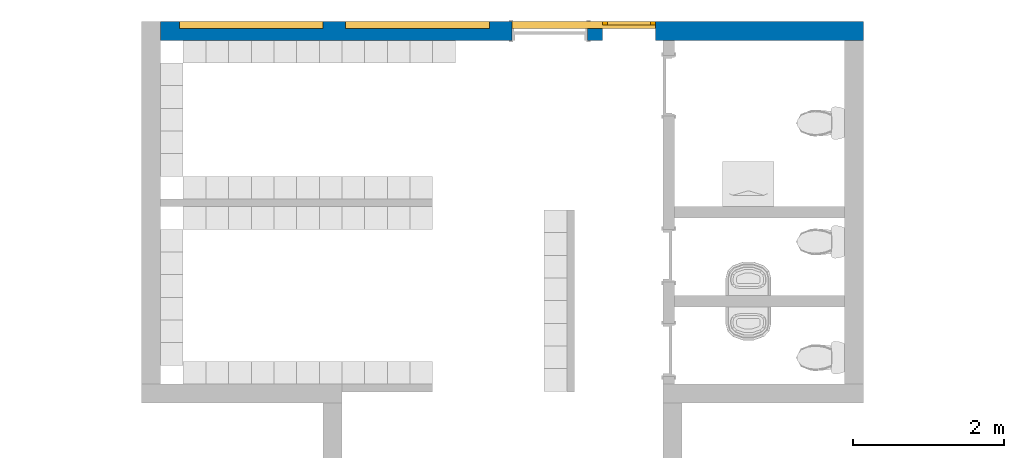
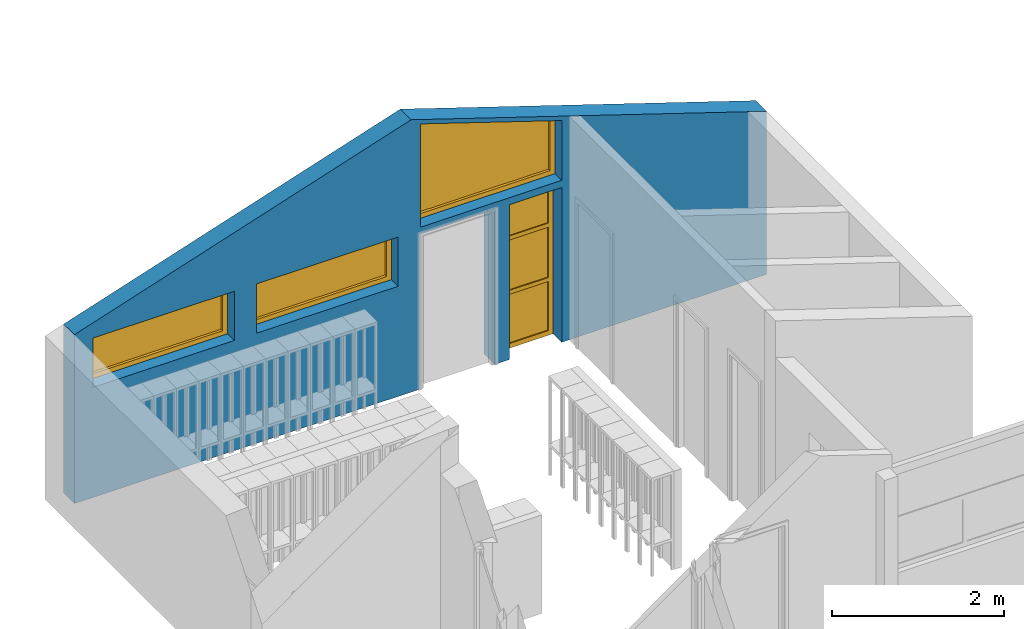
# One storey, part 17 of 48: 4 windows, 1 wall, 5 openings.
"""IFC2X3 building model written with IfcOpenShell, lengths in millimetres."""

from ifc_helpers import new_model, entity, si_unit, converted_unit, derived_unit, money_unit, direction, frame, origin_with_axes, place, context, subcontext, project, spatial, open_shell, faceted_brep, surface_model, source, transform, mapped, material, type_object, element, fill, save


model = new_model("IFC2X3")

# Units and contexts
model_context = context("Model", 3, precision=0.01, world=origin_with_axes(), true_north=direction((0.0, 1.0)))
body_context = subcontext(model_context, "Body", "Model", "MODEL_VIEW")
ifc_project = project(units=[si_unit("LENGTHUNIT", "METRE", prefix="MILLI"), si_unit("AREAUNIT", "SQUARE_METRE"), si_unit("VOLUMEUNIT", "CUBIC_METRE"), converted_unit("PLANEANGLEUNIT", "DEGREE", entity("IfcPlaneAngleMeasure", 0.0174532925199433), si_unit("PLANEANGLEUNIT", "RADIAN"), dimensions=[0, 0, 0, 0, 0, 0, 0]), money_unit("USD"), converted_unit("TIMEUNIT", "Year", entity("IfcTimeMeasure", 31557600.0), si_unit("TIMEUNIT", "SECOND"), dimensions=[0, 0, 1, 0, 0, 0, 0]), si_unit("MASSUNIT", "GRAM", prefix="KILO"), si_unit("THERMODYNAMICTEMPERATUREUNIT", "DEGREE_CELSIUS"), si_unit("LUMINOUSINTENSITYUNIT", "LUMEN"), si_unit("ENERGYUNIT", "JOULE", prefix="MEGA"), derived_unit("THERMALCONDUCTANCEUNIT", [(si_unit("POWERUNIT", "WATT"), 1), (si_unit("LENGTHUNIT", "METRE"), -1), (si_unit("THERMODYNAMICTEMPERATUREUNIT", "KELVIN"), -1)]), derived_unit("SPECIFICHEATCAPACITYUNIT", [(si_unit("ENERGYUNIT", "JOULE"), 1), (si_unit("MASSUNIT", "GRAM", prefix="KILO"), -1), (si_unit("THERMODYNAMICTEMPERATUREUNIT", "KELVIN"), -1)]), derived_unit("MASSDENSITYUNIT", [(si_unit("MASSUNIT", "GRAM", prefix="KILO"), 1), (si_unit("VOLUMEUNIT", "CUBIC_METRE"), -1)])], contexts=[model_context])

# Site, building, storey
site_placement = place(None, origin_with_axes())
site = spatial("IfcSite", under=ifc_project, at=site_placement, Name="Site", CompositionType="ELEMENT")
building_placement = place(site_placement, origin_with_axes())
building = spatial("IfcBuilding", under=site, at=building_placement, Name="Building", CompositionType="ELEMENT")
storey_placement = place(building_placement, frame((0.0, 0.0, 3300.0), z_axis=(0.0, 0.0, 1.0), x_axis=(1.0, 0.0, 0.0)))
storey = spatial("IfcBuildingStorey", under=building, at=storey_placement, Name="1 ETG", CompositionType="ELEMENT", Elevation=3300.0)

# Wall, openings, windows
ifc_material = material(Name="GENERIC - INTERNAL FILLER")
wall_type = type_object("IfcWallType", Name="GENERIC - INTERNAL FILLER 250", PredefinedType="NOTDEFINED")
wall_placement = place(storey_placement, frame((2099.999999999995, 28999.87497643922, 0.0), z_axis=(0.0, 0.0, 1.0), x_axis=(1.0, 7.248070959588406e-10, 0.0)))
wall = element("IfcWall", 1, at=wall_placement, inside=storey, type_object=wall_type, material=ifc_material, Name="SW - 001", context=body_context, shape_type="Brep", body=[
    faceted_brep([(4775.001624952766, 124.9999965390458, 2200.0), (4775.001624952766, 124.9999965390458, 0.0), (125.0000000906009, 124.9999999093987, 0.0), (125.0000000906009, 124.9999999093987, 2399.998850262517), (4650.000384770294, 124.9999966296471, 3870.261768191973), (9425.000220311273, 124.9999931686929, 2318.768884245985), (9424.999677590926, 124.9999931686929, 0.0), (6675.001624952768, 124.9999951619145, 0.0), (6675.001624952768, 124.9999951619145, 2200.0), (5975.001624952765, 124.9999956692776, 2200.0), (5975.001624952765, 124.9999956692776, 0.0), (5775.001624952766, 124.9999958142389, 0.0), (5775.001624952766, 124.9999958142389, 2200.0), (375.0000002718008, 124.9999997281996, 1565.018749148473), (2275.000000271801, 124.9999983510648, 1565.018749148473), (2275.000000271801, 124.9999983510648, 2265.018749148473), (375.0000002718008, 124.9999997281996, 2265.018749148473), (4775.001624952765, 124.9999965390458, 3767.347422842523), (4775.001624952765, 124.9999965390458, 2300.000000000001), (6675.001624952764, 124.9999951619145, 2300.000000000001), (6675.001624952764, 124.9999951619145, 3150.0), (4475.001624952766, 124.9999967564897, 2265.018749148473), (2575.001624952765, 124.9999981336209, 2265.018749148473), (2575.001624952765, 124.9999981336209, 1565.018749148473), (4475.001624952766, 124.9999967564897, 1565.018749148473), (4775.001624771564, -125.0000034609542, 2200.0), (4775.001624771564, -125.0000034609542, 0.0), (124.9999999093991, -125.0000000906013, 0.0), (124.9999999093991, -125.0000000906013, 2399.998850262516), (4650.000384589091, -125.0000033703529, 3870.261768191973), (9425.00022413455, -125.0000068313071, 2318.768882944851), (9424.999712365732, -125.0000068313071, 0.0), (6675.001624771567, -125.0000048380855, 0.0), (6675.001624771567, -125.0000048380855, 2200.0), (5975.001624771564, -125.0000043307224, 2200.0), (5975.001624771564, -125.0000043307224, 0.0), (5775.001624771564, -125.0000041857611, 0.0), (5775.001624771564, -125.0000041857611, 2200.0), (375.0000000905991, -125.0000002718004, 1565.018749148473), (2275.000000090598, -125.0000016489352, 1565.018749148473), (2275.000000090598, -125.0000016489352, 2265.018749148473), (375.0000000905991, -125.0000002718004, 2265.018749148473), (4775.001624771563, -125.0000034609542, 2300.000000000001), (4775.001624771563, -125.0000034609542, 3767.347422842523), (6675.001624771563, -125.0000048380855, 2300.000000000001), (6675.001624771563, -125.0000048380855, 3150.0), (4475.001624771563, -125.0000032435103, 2265.018749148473), (2575.001624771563, -125.0000018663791, 2265.018749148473), (2575.001624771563, -125.0000018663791, 1565.018749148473), (4475.001624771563, -125.0000032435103, 1565.018749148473)], [[[0, 1, 2, 3, 4, 5, 6, 7, 8, 9, 10, 11, 12], [13, 14, 15, 16], [17, 18, 19, 20], [21, 22, 23, 24]], [[1, 0, 25, 26]], [[1, 26, 27, 2]], [[28, 3, 2, 27]], [[4, 3, 28, 29]], [[30, 5, 4, 29]], [[5, 30, 31, 6]], [[7, 6, 31, 32]], [[7, 32, 33, 8]], [[8, 33, 34, 9]], [[9, 34, 35, 10]], [[36, 11, 10, 35]], [[12, 11, 36, 37]], [[0, 12, 37, 25]], [[14, 13, 38, 39]], [[15, 14, 39, 40]], [[16, 15, 40, 41]], [[13, 16, 41, 38]], [[42, 18, 17, 43]], [[44, 19, 18, 42]], [[45, 20, 19, 44]], [[43, 17, 20, 45]], [[46, 47, 22, 21]], [[47, 48, 23, 22]], [[48, 49, 24, 23]], [[49, 46, 21, 24]], [[37, 36, 35, 34, 33, 32, 31, 30, 29, 28, 27, 26, 25], [38, 41, 40, 39], [44, 42, 43, 45], [46, 49, 48, 47]]]),
])
opening_1_placement = place(wall_placement, frame((5725.001624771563, 0.0, 2300.000000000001), z_axis=(0.0, 0.0, 1.0), x_axis=(1.0, 0.0, 0.0)))
opening_1 = element("IfcOpeningElement", 2, at=opening_1_placement, cuts=wall, Name="WD - 001", context=body_context, shape_type="Brep", body=[
    faceted_brep([(-950.000000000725, -126.000003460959, 1467.347422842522), (-950.000000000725, -126.000003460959, 0.0), (949.9999999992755, -126.0000048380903, 0.0), (949.9999999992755, -126.0000048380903, 849.9999999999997), (-949.9999998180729, 126.0000032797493, 1467.347422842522), (-949.9999998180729, 126.0000032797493, 0.0), (950.0000001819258, 126.000001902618, 0.0), (950.0000001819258, 126.000001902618, 849.9999999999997)], [[[0, 1, 2, 3]], [[4, 5, 1, 0]], [[5, 6, 2, 1]], [[6, 7, 3, 2]], [[7, 4, 0, 3]], [[6, 5, 4, 7]]]),
])
opening_2_placement = place(wall_placement, frame((3525.001624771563, 0.0, 1565.018749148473), z_axis=(0.0, 0.0, 1.0), x_axis=(1.0, 0.0, 0.0)))
opening_2 = element("IfcOpeningElement", 3, at=opening_2_placement, cuts=wall, Name="WD - 001", context=body_context, shape_type="Brep", body=[
    faceted_brep([(-950.0000000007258, -126.0000018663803, 700.0000000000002), (-950.0000000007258, -126.0000018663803, 0.0), (949.9999999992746, -126.0000032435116, 0.0), (949.9999999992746, -126.0000032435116, 700.0000000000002), (-949.9999998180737, 126.0000048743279, 700.0000000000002), (-949.9999998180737, 126.0000048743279, 0.0), (950.0000001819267, 126.0000034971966, 0.0), (950.0000001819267, 126.0000034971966, 700.0000000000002)], [[[0, 1, 2, 3]], [[4, 5, 1, 0]], [[5, 6, 2, 1]], [[6, 7, 3, 2]], [[7, 4, 0, 3]], [[6, 5, 4, 7]]]),
])
opening_3_placement = place(wall_placement, frame((6325.001624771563, 0.0, 0.0), z_axis=(0.0, 0.0, 1.0), x_axis=(1.0, 0.0, 0.0)))
opening_3 = element("IfcOpeningElement", 4, at=opening_3_placement, cuts=wall, Name="WD - 001", context=body_context, shape_type="Brep", body=[
    faceted_brep([(-350.0000000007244, -126.0000043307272, 2200.0), (-350.0000000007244, -126.0000043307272, 0.0), (349.9999999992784, -126.0000048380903, 0.0), (349.9999999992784, -126.0000048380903, 2200.0), (-349.9999998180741, 126.000002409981, 2200.0), (-349.9999998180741, 126.000002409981, 0.0), (350.0000001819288, 126.000001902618, 0.0), (350.0000001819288, 126.000001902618, 2200.0)], [[[0, 1, 2, 3]], [[4, 5, 1, 0]], [[5, 6, 2, 1]], [[6, 7, 3, 2]], [[7, 4, 0, 3]], [[6, 5, 4, 7]]]),
])
opening_4_placement = place(wall_placement, frame((5275.001624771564, 0.0, 0.0), z_axis=(0.0, 0.0, 1.0), x_axis=(1.0, 0.0, 0.0)))
element("IfcOpeningElement", 5, at=opening_4_placement, cuts=wall, Name="DOO - 002", context=body_context, shape_type="Brep", body=[
    faceted_brep([(-500.0000000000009, -125.0000034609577, 2200.0), (499.9999999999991, -125.0000041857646, 2200.0), (500.0000001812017, 124.9999958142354, 2200.0), (-499.9999998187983, 124.9999965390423, 2200.0), (499.9999999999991, -125.0000041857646, 0.0), (-500.0000000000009, -125.0000034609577, 0.0), (-537.0000000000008, -125.0000034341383, 0.0), (-537.0000000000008, -125.0000034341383, 2237.0), (536.9999999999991, -125.0000042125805, 2237.0), (536.9999999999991, -125.0000042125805, 0.0), (500.0000001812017, 124.9999958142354, 0.0), (537.0000001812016, 124.9999957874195, 0.0), (537.0000001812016, 124.9999957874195, 2237.0), (-536.9999998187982, 124.9999965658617, 2237.0), (-536.9999998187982, 124.9999965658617, 0.0), (-499.9999998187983, 124.9999965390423, 0.0), (-500.0000000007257, -126.000003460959, 0.0), (-537.0000000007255, -126.0000034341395, 0.0), (-537.0000000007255, -126.0000034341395, 2237.0), (536.9999999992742, -126.0000042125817, 2237.0), (536.9999999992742, -126.0000042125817, 0.0), (499.9999999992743, -126.0000041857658, 0.0), (-499.9999998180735, 126.0000032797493, 0.0), (500.0000001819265, 126.0000025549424, 0.0), (537.0000001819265, 126.0000025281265, 0.0), (537.0000001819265, 126.0000025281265, 2237.0), (-536.9999998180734, 126.0000033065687, 2237.0), (-536.9999998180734, 126.0000033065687, 0.0), (-500.0000000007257, -126.000003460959, 2200.0), (499.9999999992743, -126.0000041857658, 2200.0)], [[[0, 1, 2, 3]], [[4, 1, 0, 5, 6, 7, 8, 9]], [[1, 4, 10, 2]], [[3, 2, 10, 11, 12, 13, 14, 15]], [[5, 0, 3, 15]], [[5, 16, 17, 6]], [[7, 6, 17, 18]], [[8, 7, 18, 19]], [[9, 8, 19, 20]], [[21, 4, 9, 20]], [[16, 5, 15, 22, 23, 10, 4, 21]], [[10, 23, 24, 11]], [[12, 11, 24, 25]], [[13, 12, 25, 26]], [[14, 13, 26, 27]], [[22, 15, 14, 27]], [[28, 29, 21, 20, 19, 18, 17, 16]], [[23, 22, 27, 26, 25, 24]], [[28, 16, 21, 29]]]),
])
opening_5_placement = place(wall_placement, frame((1325.000000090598, 0.0, 1565.018749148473), z_axis=(0.0, 0.0, 1.0), x_axis=(1.0, 0.0, 0.0)))
opening_5 = element("IfcOpeningElement", 6, at=opening_5_placement, cuts=wall, Name="WD - 001", context=body_context, shape_type="Brep", body=[
    faceted_brep([(-950.0000000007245, -126.0000002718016, 700.0000000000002), (-950.0000000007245, -126.0000002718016, 0.0), (949.9999999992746, -126.0000016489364, 0.0), (949.9999999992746, -126.0000016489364, 700.0000000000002), (-949.9999998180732, 126.0000064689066, 700.0000000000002), (-949.9999998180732, 126.0000064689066, 0.0), (950.0000001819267, 126.0000050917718, 0.0), (950.0000001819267, 126.0000050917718, 700.0000000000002)], [[[0, 1, 2, 3]], [[4, 5, 1, 0]], [[5, 6, 2, 1]], [[6, 7, 3, 2]], [[7, 4, 0, 3]], [[6, 5, 4, 7]]]),
])
window_style_1 = type_object("IfcWindowStyle", Name="Vindu", ConstructionType="NOTDEFINED", OperationType="SINGLE_PANEL", ParameterTakesPrecedence=False, Sizeable=False)
shared_shape_1 = source(origin_with_axes(), body_context, "Body", "SurfaceModel", [
    faceted_brep([(883.9999999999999, -92.00000000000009, 633.9999999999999), (950.0, -92.00000000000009, 633.9999999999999), (950.0, 0.0, 633.9999999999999), (883.9999999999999, 0.0, 633.9999999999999), (883.9999999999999, -92.0, 66.0), (950.0, -92.0, 66.0), (950.0, 0.0, 66.0), (883.9999999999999, 0.0, 66.0)], [[[0, 1, 2, 3]], [[0, 4, 5, 1]], [[1, 5, 6, 2]], [[3, 2, 6, 7]], [[4, 0, 3, 7]], [[5, 4, 7, 6]]]),
    faceted_brep([(-883.9999999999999, -92.0, 66.0), (-950.0, -92.0, 66.0), (-950.0, 0.0, 66.0), (-883.9999999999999, 0.0, 66.0), (-883.9999999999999, -92.00000000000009, 633.9999999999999), (-950.0, -92.00000000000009, 633.9999999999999), (-950.0, 0.0, 633.9999999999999), (-883.9999999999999, 0.0, 633.9999999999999)], [[[0, 1, 2, 3]], [[0, 4, 5, 1]], [[1, 5, 6, 2]], [[3, 2, 6, 7]], [[4, 0, 3, 7]], [[5, 4, 7, 6]]]),
    faceted_brep([(883.9999999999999, -92.0, 66.0), (950.0, -92.0, 66.0), (950.0, 0.0, 66.0), (883.9999999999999, 0.0, 66.0), (-883.9999999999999, -92.0, 66.0), (-950.0, -92.0, 66.0), (-950.0, -92.0, 0.0), (950.0, -92.0, 0.0), (950.0, 0.0, 0.0), (-950.0, 0.0, 0.0), (-950.0, 0.0, 66.0), (-883.9999999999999, 0.0, 66.0)], [[[0, 1, 2, 3]], [[0, 4, 5, 6, 7, 1]], [[1, 7, 8, 2]], [[3, 2, 8, 9, 10, 11]], [[4, 0, 3, 11]], [[5, 4, 11, 10]], [[6, 5, 10, 9]], [[7, 6, 9, 8]]]),
    faceted_brep([(-883.9999999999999, -92.00000000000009, 633.9999999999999), (-950.0, -92.00000000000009, 633.9999999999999), (-950.0, 0.0, 633.9999999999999), (-883.9999999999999, 0.0, 633.9999999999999), (883.9999999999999, -92.00000000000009, 633.9999999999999), (950.0, -92.00000000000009, 633.9999999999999), (950.0, -92.00000000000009, 700.0), (-950.0, -92.00000000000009, 700.0), (-950.0, 0.0, 700.0), (950.0, 0.0, 700.0), (950.0, 0.0, 633.9999999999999), (883.9999999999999, 0.0, 633.9999999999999)], [[[0, 1, 2, 3]], [[0, 4, 5, 6, 7, 1]], [[1, 7, 8, 2]], [[3, 2, 8, 9, 10, 11]], [[4, 0, 3, 11]], [[5, 4, 11, 10]], [[6, 5, 10, 9]], [[7, 6, 9, 8]]]),
    surface_model("IfcShellBasedSurfaceModel", [(883.9999999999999, -56.0, 66.0), (883.9999999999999, -56.00000000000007, 633.9999999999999), (-883.9999999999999, -56.00000000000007, 633.9999999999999), (-883.9999999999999, -56.0, 66.0)], [open_shell([[[0, 1, 2, 3]]])]),
    surface_model("IfcShellBasedSurfaceModel", [(883.9999999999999, -36.00000000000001, 66.0), (-883.9999999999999, -36.00000000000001, 66.0), (-883.9999999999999, -36.00000000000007, 633.9999999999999), (883.9999999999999, -36.00000000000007, 633.9999999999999)], [open_shell([[[0, 1, 2, 3]]])]),
])
window_1_placement = place(opening_5_placement, frame((-950.0000000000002, 0.0, 0.0), z_axis=(0.0, 0.0, 1.0), x_axis=(1.0, 0.0, 0.0)))
window_1 = element("IfcWindow", 7, at=window_1_placement, inside=storey, type_object=window_style_1, Name="WD - 001", ObjectType="WINDOW", OverallHeight=700.0, OverallWidth=1900.0, context=body_context, shape_type="MappedRepresentation", body=[
    mapped(shared_shape_1, transform((950.0000001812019, 124.9999990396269, 0.0))),
])
fill(opening_5, window_1)
window_2_placement = place(opening_2_placement, frame((-950.0000000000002, 0.0, 0.0), z_axis=(0.0, 0.0, 1.0), x_axis=(1.0, 0.0, 0.0)))
window_2 = element("IfcWindow", 8, at=window_2_placement, inside=storey, type_object=window_style_1, Name="WD - 001", ObjectType="WINDOW", OverallHeight=700.0, OverallWidth=1900.0, context=body_context, shape_type="MappedRepresentation", body=[
    mapped(shared_shape_1, transform((950.0000001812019, 124.9999974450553, 0.0))),
])
fill(opening_2, window_2)
window_style_2 = type_object("IfcWindowStyle", Name="Vindu med skrå topp", ConstructionType="NOTDEFINED", OperationType="USERDEFINED", ParameterTakesPrecedence=False, Sizeable=False)
shared_shape_2 = source(origin_with_axes(), body_context, "Body", "SurfaceModel", [
    faceted_brep([(883.9999999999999, -92.00000000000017, 1376.506216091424), (950.0, -92.00000000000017, 1376.506216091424), (950.0, 0.0, 1376.506216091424), (883.9999999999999, 0.0, 1376.506216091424), (883.9999999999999, -92.0, 66.0), (950.0, -92.0, 66.0), (950.0, 0.0, 66.0), (883.9999999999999, 0.0, 66.0)], [[[0, 1, 2, 3]], [[0, 4, 5, 1]], [[1, 5, 6, 2]], [[3, 2, 6, 7]], [[4, 0, 3, 7]], [[5, 4, 7, 6]]]),
    faceted_brep([(-883.9999999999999, -92.0, 66.0), (-950.0, -92.0, 66.0), (-950.0, 0.0, 66.0), (-883.9999999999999, 0.0, 66.0), (-883.9999999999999, -92.0000000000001, 802.0481931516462), (-950.0, -92.0000000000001, 802.0481931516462), (-950.0, 0.0, 802.0481931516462), (-883.9999999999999, 0.0, 802.0481931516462)], [[[0, 1, 2, 3]], [[0, 4, 5, 1]], [[1, 5, 6, 2]], [[3, 2, 6, 7]], [[4, 0, 3, 7]], [[5, 4, 7, 6]]]),
    faceted_brep([(950.0, -92.00000000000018, 1467.347422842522), (950.0, -92.00000000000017, 1376.506216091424), (950.0, 0.0, 1376.506216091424), (950.0, 0.0, 1467.347422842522), (-950.0, -92.0000000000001, 850.0), (-950.0, -92.0000000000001, 802.0481931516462), (-883.9999999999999, -92.0000000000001, 802.0481931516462), (883.9999999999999, -92.00000000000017, 1376.506216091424), (883.9999999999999, 0.0, 1376.506216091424), (-883.9999999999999, 0.0, 802.0481931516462), (-950.0, 0.0, 802.0481931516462), (-950.0, 0.0, 850.0)], [[[0, 1, 2, 3]], [[0, 4, 5, 6, 7, 1]], [[1, 7, 8, 2]], [[3, 2, 8, 9, 10, 11]], [[4, 0, 3, 11]], [[5, 4, 11, 10]], [[6, 5, 10, 9]], [[7, 6, 9, 8]]]),
    faceted_brep([(-950.0, -92.0, 0.0), (-950.0, -92.0, 66.0), (-950.0, 0.0, 66.0), (-950.0, 0.0, 0.0), (950.0, -92.0, 0.0), (950.0, -92.0, 66.0), (883.9999999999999, -92.0, 66.0), (-883.9999999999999, -92.0, 66.0), (-883.9999999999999, 0.0, 66.0), (883.9999999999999, 0.0, 66.0), (950.0, 0.0, 66.0), (950.0, 0.0, 0.0)], [[[0, 1, 2, 3]], [[0, 4, 5, 6, 7, 1]], [[1, 7, 8, 2]], [[3, 2, 8, 9, 10, 11]], [[4, 0, 3, 11]], [[5, 4, 11, 10]], [[6, 5, 10, 9]], [[7, 6, 9, 8]]]),
    surface_model("IfcShellBasedSurfaceModel", [(883.9999999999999, -56.0, 66.0), (883.9999999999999, -56.00000000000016, 1376.506216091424), (-883.9999999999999, -56.00000000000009, 802.0481931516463), (-883.9999999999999, -56.0, 66.0)], [open_shell([[[0, 1, 2, 3]]])]),
    surface_model("IfcShellBasedSurfaceModel", [(883.9999999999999, -36.00000000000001, 66.0), (-883.9999999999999, -36.00000000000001, 66.0), (-883.9999999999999, -36.00000000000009, 802.0481931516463), (883.9999999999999, -36.00000000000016, 1376.506216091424)], [open_shell([[[0, 1, 2, 3]]])]),
])
window_3_placement = place(opening_1_placement, frame((949.9999999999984, 0.0, 0.0), z_axis=(0.0, 0.0, 1.0), x_axis=(-1.0, 0.0, 0.0)))
window_3 = element("IfcWindow", 9, at=window_3_placement, inside=storey, type_object=window_style_2, Name="WD - 001", ObjectType="WINDOW", OverallHeight=1467.35, OverallWidth=1900.0, context=body_context, shape_type="MappedRepresentation", body=[
    mapped(shared_shape_2, transform((949.9999998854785, -32.99999585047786, 0.0))),
])
fill(opening_1, window_3)
window_style_3 = type_object("IfcWindowStyle", Name="Vindu variabelt", ConstructionType="NOTDEFINED", OperationType="TRIPLE_PANEL_HORIZONTAL", ParameterTakesPrecedence=False, Sizeable=False)
shared_shape_3 = source(origin_with_axes(), body_context, "Body", "SurfaceModel", [
    faceted_brep([(-284.0000000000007, -50.00000000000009, 764.4329028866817), (-284.0000000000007, 0.0, 764.4329028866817), (-284.0000000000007, 0.0, 820.4329028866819), (-284.0000000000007, -50.0000000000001, 820.4329028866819), (-284.0000000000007, -50.00000000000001, 66.0), (-284.0000000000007, 0.0, 66.0), (-350.0000000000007, 0.0, 66.0), (-350.0000000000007, 0.0, 2134.0), (-284.0000000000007, 0.0, 2134.0), (-284.0000000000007, 0.0, 1593.018749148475), (-284.0000000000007, 0.0, 1537.018749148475), (-284.0000000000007, -50.00000000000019, 1537.018749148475), (-284.0000000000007, -50.0000000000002, 1593.018749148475), (-284.0000000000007, -50.00000000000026, 2134.0), (-350.0000000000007, -50.00000000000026, 2134.0), (-350.0000000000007, -50.00000000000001, 66.0)], [[[0, 1, 2, 3]], [[4, 5, 1, 0]], [[1, 5, 6, 7, 8, 9, 10, 2]], [[3, 2, 10, 11]], [[0, 3, 11, 12, 13, 14, 15, 4]], [[15, 6, 5, 4]], [[14, 7, 6, 15]], [[13, 8, 7, 14]], [[12, 9, 8, 13]], [[11, 10, 9, 12]]]),
    faceted_brep([(284.0000000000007, -50.00000000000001, 66.0), (284.0000000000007, 0.0, 66.0), (350.0000000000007, 0.0, 66.0), (350.0000000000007, -50.00000000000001, 66.0), (284.0000000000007, -50.00000000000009, 764.4329028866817), (284.0000000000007, 0.0, 764.4329028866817), (284.0000000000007, 0.0, 820.4329028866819), (284.0000000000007, 0.0, 1537.018749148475), (284.0000000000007, 0.0, 1593.018749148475), (284.0000000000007, 0.0, 2134.0), (350.0000000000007, 0.0, 2134.0), (350.0000000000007, -50.00000000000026, 2134.0), (284.0000000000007, -50.00000000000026, 2134.0), (284.0000000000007, -50.0000000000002, 1593.018749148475), (284.0000000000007, -50.00000000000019, 1537.018749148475), (284.0000000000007, -50.0000000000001, 820.4329028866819)], [[[0, 1, 2, 3]], [[4, 5, 1, 0]], [[1, 5, 6, 7, 8, 9, 10, 2]], [[3, 2, 10, 11]], [[0, 3, 11, 12, 13, 14, 15, 4]], [[15, 6, 5, 4]], [[14, 7, 6, 15]], [[13, 8, 7, 14]], [[12, 9, 8, 13]], [[11, 10, 9, 12]]]),
    faceted_brep([(-284.0000000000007, -50.0000000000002, 1593.018749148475), (-284.0000000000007, 0.0, 1593.018749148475), (-284.0000000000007, 0.0, 1537.018749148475), (-284.0000000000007, -50.00000000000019, 1537.018749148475), (284.0000000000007, -50.0000000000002, 1593.018749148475), (284.0000000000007, 0.0, 1593.018749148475), (284.0000000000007, 0.0, 1537.018749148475), (284.0000000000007, -50.00000000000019, 1537.018749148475)], [[[0, 1, 2, 3]], [[4, 5, 1, 0]], [[1, 5, 6, 2]], [[3, 2, 6, 7]], [[0, 3, 7, 4]], [[7, 6, 5, 4]]]),
    faceted_brep([(-284.0000000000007, -50.00000000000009, 764.4329028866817), (-284.0000000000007, 0.0, 764.4329028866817), (284.0000000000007, 0.0, 764.4329028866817), (284.0000000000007, -50.00000000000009, 764.4329028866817), (-284.0000000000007, -50.0000000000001, 820.4329028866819), (-284.0000000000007, 0.0, 820.4329028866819), (284.0000000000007, 0.0, 820.4329028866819), (284.0000000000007, -50.0000000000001, 820.4329028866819)], [[[0, 1, 2, 3]], [[4, 5, 1, 0]], [[1, 5, 6, 2]], [[3, 2, 6, 7]], [[0, 3, 7, 4]], [[7, 6, 5, 4]]]),
    faceted_brep([(-284.0000000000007, -50.00000000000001, 66.0), (-284.0000000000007, 0.0, 66.0), (-350.0000000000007, 0.0, 66.0), (-350.0000000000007, -50.00000000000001, 66.0), (284.0000000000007, -50.00000000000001, 66.0), (284.0000000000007, 0.0, 66.0), (350.0000000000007, 0.0, 66.0), (350.0000000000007, 0.0, 0.0), (-350.0000000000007, 0.0, 0.0), (-350.0000000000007, -50.0, 0.0), (350.0000000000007, -50.0, 0.0), (350.0000000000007, -50.00000000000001, 66.0)], [[[0, 1, 2, 3]], [[4, 5, 1, 0]], [[1, 5, 6, 7, 8, 2]], [[3, 2, 8, 9]], [[0, 3, 9, 10, 11, 4]], [[11, 6, 5, 4]], [[10, 7, 6, 11]], [[9, 8, 7, 10]]]),
    faceted_brep([(284.0000000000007, -50.00000000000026, 2134.0), (284.0000000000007, 0.0, 2134.0), (350.0000000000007, 0.0, 2134.0), (350.0000000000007, -50.00000000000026, 2134.0), (-284.0000000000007, -50.00000000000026, 2134.0), (-284.0000000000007, 0.0, 2134.0), (-350.0000000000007, 0.0, 2134.0), (-350.0000000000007, 0.0, 2200.0), (350.0000000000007, 0.0, 2200.0), (350.0000000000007, -50.00000000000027, 2200.0), (-350.0000000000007, -50.00000000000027, 2200.0), (-350.0000000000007, -50.00000000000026, 2134.0)], [[[0, 1, 2, 3]], [[4, 5, 1, 0]], [[1, 5, 6, 7, 8, 2]], [[3, 2, 8, 9]], [[0, 3, 9, 10, 11, 4]], [[11, 6, 5, 4]], [[10, 7, 6, 11]], [[9, 8, 7, 10]]]),
    surface_model("IfcShellBasedSurfaceModel", [(-284.0000000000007, -35.00000000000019, 1593.018749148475), (284.0000000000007, -35.00000000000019, 1593.018749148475), (284.0000000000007, -35.00000000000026, 2134.0), (-284.0000000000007, -35.00000000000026, 2134.0)], [open_shell([[[0, 1, 2, 3]]])]),
    surface_model("IfcShellBasedSurfaceModel", [(-284.0000000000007, -15.00000000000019, 1593.018749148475), (-284.0000000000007, -15.00000000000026, 2134.0), (284.0000000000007, -15.00000000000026, 2134.0), (284.0000000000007, -15.00000000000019, 1593.018749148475)], [open_shell([[[0, 1, 2, 3]]])]),
    surface_model("IfcShellBasedSurfaceModel", [(-284.0000000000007, -35.0000000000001, 820.4329028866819), (284.0000000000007, -35.0000000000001, 820.4329028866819), (284.0000000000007, -35.00000000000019, 1537.018749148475), (-284.0000000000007, -35.00000000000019, 1537.018749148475)], [open_shell([[[0, 1, 2, 3]]])]),
    surface_model("IfcShellBasedSurfaceModel", [(-284.0000000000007, -15.0000000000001, 820.4329028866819), (-284.0000000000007, -15.00000000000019, 1537.018749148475), (284.0000000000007, -15.00000000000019, 1537.018749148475), (284.0000000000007, -15.0000000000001, 820.4329028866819)], [open_shell([[[0, 1, 2, 3]]])]),
    surface_model("IfcShellBasedSurfaceModel", [(-284.0000000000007, -35.00000000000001, 66.0), (284.0000000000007, -35.00000000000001, 66.0), (284.0000000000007, -35.00000000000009, 764.4329028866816), (-284.0000000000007, -35.00000000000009, 764.4329028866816)], [open_shell([[[0, 1, 2, 3]]])]),
    surface_model("IfcShellBasedSurfaceModel", [(-284.0000000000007, -15.00000000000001, 66.0), (-284.0000000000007, -15.0000000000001, 764.4329028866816), (284.0000000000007, -15.0000000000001, 764.4329028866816), (284.0000000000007, -15.00000000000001, 66.0)], [open_shell([[[0, 1, 2, 3]]])]),
])
window_4_placement = place(opening_3_placement, frame((-349.9999999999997, 0.0, 0.0), z_axis=(0.0, 0.0, 1.0), x_axis=(1.0, 0.0, 0.0)))
window_4 = element("IfcWindow", 10, at=window_4_placement, inside=storey, type_object=window_style_3, Name="WD - 001", ObjectType="WINDOW", OverallHeight=2200.0, OverallWidth=700.0, context=body_context, shape_type="MappedRepresentation", body=[
    mapped(shared_shape_3, transform((350.000000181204, 124.9999954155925, 0.0))),
])
fill(opening_3, window_4)

save(model, "model.ifc")
